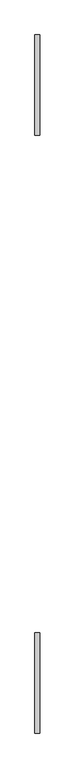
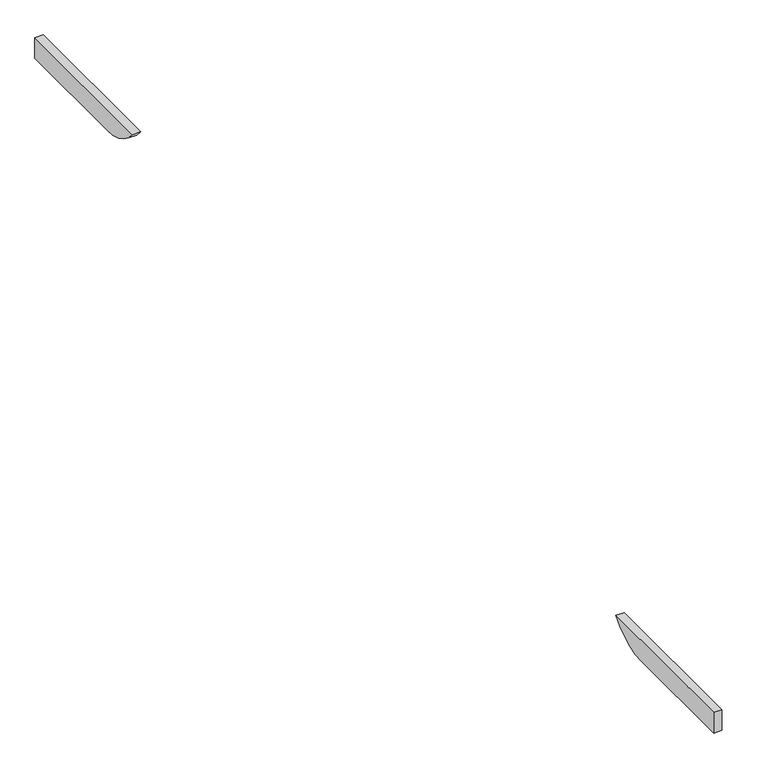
"""IFC4 building model written with IfcOpenShell, lengths in millimetres: proxy geometry, Modelos genéricos 65 : Modelos genéricos 2."""

import ifcopenshell
import ifcopenshell.guid

model = None  # the IFC model being written
_history = None  # IfcOwnerHistory: only IFC2X3 demands one
_inside = {}  # id of a spatial element -> (the spatial element, [elements in it])
_under = {}  # id of a project, library or spatial element -> (it, [spatial elements below it])
_declared = {}  # id of a project -> (the project, [libraries it declares])
_typed = {}  # id of a type object -> (the type object, [elements of that type])
_made_of = {}  # id of a material, layer set ... -> (it, [elements and type objects made of it])


def new_model(schema):
    """Start an empty IFC model of exactly this schema.

    Asked for "IFC4X3", IfcOpenShell would pick the latest addendum, in which some entities
    have other attributes; the version numbers below select the first issue.
    IFC2X3 requires an IfcOwnerHistory on every rooted entity: one is made here for all.
    """
    global model, _history
    if schema == "IFC4X3":
        model = ifcopenshell.file(schema_version=(4, 3, 0, 0))
    else:
        model = ifcopenshell.file(schema=schema)
    _inside.clear()
    _under.clear()
    _declared.clear()
    _typed.clear()
    _made_of.clear()
    _history = None
    if model.schema == "IFC2X3":
        org = make("IfcOrganization", Name="unknown")
        user = make(
            "IfcPersonAndOrganization",
            ThePerson=make("IfcPerson", FamilyName="unknown"),
            TheOrganization=org,
        )
        app = make(
            "IfcApplication",
            ApplicationDeveloper=org,
            Version="unknown",
            ApplicationFullName="unknown",
            ApplicationIdentifier="unknown",
        )
        _history = make(
            "IfcOwnerHistory",
            OwningUser=user,
            OwningApplication=app,
            ChangeAction="ADDED",
            CreationDate=0,
        )
    return model


def make(cls, **values):
    """One entity of the class cls with the attributes given. An attribute that is None is left unset."""
    return model.create_entity(
        cls, **{name: value for name, value in values.items() if value is not None}
    )


def rooted(cls, **values):
    """An entity with a GlobalId (a new one), such as an element, a storey or a relation."""
    return make(cls, GlobalId=ifcopenshell.guid.new(), OwnerHistory=_history, **values)


def si_unit(unit_type, name, prefix=None):
    """IfcSIUnit, for example si_unit("LENGTHUNIT", "METRE", prefix="MILLI")."""
    return make("IfcSIUnit", UnitType=unit_type, Prefix=prefix, Name=name)


def assignment(units):
    """IfcUnitAssignment: the units of a project."""
    return None if units is None else make("IfcUnitAssignment", Units=units)


def point(xyz):
    """IfcCartesianPoint."""
    return None if xyz is None else make("IfcCartesianPoint", Coordinates=xyz)


def direction(xyz):
    """IfcDirection."""
    return None if xyz is None else make("IfcDirection", DirectionRatios=xyz)


def frame(location, z_axis=None, x_axis=None):
    """IfcAxis2Placement3D, a coordinate frame: its origin and axes. An axis left out is left unset."""
    return make(
        "IfcAxis2Placement3D",
        Location=point(location),
        Axis=direction(z_axis),
        RefDirection=direction(x_axis),
    )


def frame_2d(location, x_axis=None):
    """IfcAxis2Placement2D, a coordinate frame in the plane: its origin and x axis."""
    return make(
        "IfcAxis2Placement2D", Location=point(location), RefDirection=direction(x_axis)
    )


def origin():
    """The frame at (0, 0, 0) with its axes left unset."""
    return frame((0.0, 0.0, 0.0))


def place(relative_to, where):
    """IfcLocalPlacement: puts the frame where relative to a parent placement (None: the world)."""
    return make(
        "IfcLocalPlacement", PlacementRelTo=relative_to, RelativePlacement=where
    )


def context(
    kind, dimensions, precision=None, world=None, true_north=None, identifier=None
):
    """IfcGeometricRepresentationContext, for example the 3D "Model" context."""
    return make(
        "IfcGeometricRepresentationContext",
        ContextIdentifier=identifier,
        ContextType=kind,
        CoordinateSpaceDimension=dimensions,
        Precision=precision,
        WorldCoordinateSystem=world,
        TrueNorth=true_north,
    )


def project(units=None, contexts=None):
    """IfcProject with its units and contexts."""
    return rooted(
        "IfcProject",
        Name="project",
        RepresentationContexts=contexts,
        UnitsInContext=assignment(units),
    )


def spatial(cls, under=None, at=None, **own):
    """A site, building, storey or space (cls), placed at a placement, below another one or the project."""
    s = rooted(cls, ObjectPlacement=at, **own)
    if under is not None:
        _under.setdefault(under.id(), (under, []))[1].append(s)
    return s


def polyline(points):
    """IfcPolyline through the points."""
    return make("IfcPolyline", Points=[point(p) for p in points])


def circle_curve(where, radius):
    """IfcCircle in the frame where."""
    return make("IfcCircle", Position=where, Radius=radius)


def trimmed(basis, trim1, trim2, sense, master):
    """IfcTrimmedCurve: the piece of a basis curve between two trims."""
    return make(
        "IfcTrimmedCurve",
        BasisCurve=basis,
        Trim1=trim1,
        Trim2=trim2,
        SenseAgreement=sense,
        MasterRepresentation=master,
    )


def segment(curve, same_sense, transition):
    """IfcCompositeCurveSegment."""
    return make(
        "IfcCompositeCurveSegment",
        Transition=transition,
        SameSense=same_sense,
        ParentCurve=curve,
    )


def composite_curve(segments, self_intersect=None):
    """IfcCompositeCurve: segments joined end to end."""
    return make("IfcCompositeCurve", Segments=segments, SelfIntersect=self_intersect)


def outline(outer, holes=None, kind="AREA"):
    """IfcArbitraryClosedProfileDef: a profile drawn as a closed curve; with holes, ...WithVoids."""
    if holes is None:
        return make("IfcArbitraryClosedProfileDef", ProfileType=kind, OuterCurve=outer)
    return make(
        "IfcArbitraryProfileDefWithVoids",
        ProfileType=kind,
        OuterCurve=outer,
        InnerCurves=holes,
    )


def extrude(swept, where, along, depth):
    """IfcExtrudedAreaSolid: the profile swept, set in the frame where, extruded along a direction by depth."""
    return make(
        "IfcExtrudedAreaSolid",
        SweptArea=swept,
        Position=where,
        ExtrudedDirection=direction(along),
        Depth=depth,
    )


def shape(context_of_items, identifier, shape_type, items):
    """IfcShapeRepresentation: the items that make up one representation, for example the "Body"."""
    return make(
        "IfcShapeRepresentation",
        ContextOfItems=context_of_items,
        RepresentationIdentifier=identifier,
        RepresentationType=shape_type,
        Items=items,
    )


def source(mapping_origin, context_of_items, identifier, shape_type, items):
    """IfcRepresentationMap: a shape defined once, which mapped items show again and again."""
    return make(
        "IfcRepresentationMap",
        MappingOrigin=mapping_origin,
        MappedRepresentation=shape(context_of_items, identifier, shape_type, items),
    )


def transform(
    local_origin,
    x_axis=None,
    y_axis=None,
    z_axis=None,
    scale=None,
    scale2=None,
    scale3=None,
    uniform=True,
):
    """IfcCartesianTransformationOperator3D, or its non-uniform kind. x_axis, y_axis, z_axis: its Axis1, 2, 3."""
    if uniform:
        return make(
            "IfcCartesianTransformationOperator3D",
            Axis1=direction(x_axis),
            Axis2=direction(y_axis),
            LocalOrigin=point(local_origin),
            Scale=scale,
            Axis3=direction(z_axis),
        )
    return make(
        "IfcCartesianTransformationOperator3DnonUniform",
        Axis1=direction(x_axis),
        Axis2=direction(y_axis),
        LocalOrigin=point(local_origin),
        Scale=scale,
        Axis3=direction(z_axis),
        Scale2=scale2,
        Scale3=scale3,
    )


def mapped(mapping_source, mapping_target):
    """IfcMappedItem: shows the shape of a source again, moved by a transform."""
    return make(
        "IfcMappedItem", MappingSource=mapping_source, MappingTarget=mapping_target
    )


def made_of(thing, what):
    """Note that an element or type object is made of a material, layer set ...; save() writes the relation."""
    if what is not None:
        _made_of.setdefault(what.id(), (what, []))[1].append(thing)
    return thing


def element(
    cls,
    number,
    at=None,
    inside=None,
    cuts=None,
    type_object=None,
    material=None,
    context=None,
    identifier="Body",
    shape_type=None,
    held_by="IfcProductDefinitionShape",
    body=None,
    shapes=None,
    **own,
):
    """One element of the class cls, such as IfcWall. Its Tag is "e" and its number.

    at: its placement. inside: the storey or other place that contains it. cuts: it is an
    opening in that element (IfcRelVoidsElement). A single representation is given by context,
    identifier, shape_type and body (its items); several are given by shapes. held_by: the class
    of the entity that holds the representations. save() writes the other relations.
    """
    e = rooted(cls, Tag="e%d" % number, ObjectPlacement=at, **own)
    if body is not None:
        shapes = [shape(context, identifier, shape_type, body)]
    if shapes is not None:
        e.Representation = make(held_by, Representations=shapes)
    if inside is not None:
        _inside.setdefault(inside.id(), (inside, []))[1].append(e)
    if cuts is not None:
        rooted(
            "IfcRelVoidsElement", RelatingBuildingElement=cuts, RelatedOpeningElement=e
        )
    if type_object is not None:
        _typed.setdefault(type_object.id(), (type_object, []))[1].append(e)
    return made_of(e, material)


def aggregate(whole, parts):
    """IfcRelAggregates: a whole, such as a stair, and the parts it consists of."""
    return rooted("IfcRelAggregates", RelatingObject=whole, RelatedObjects=parts)


def save(model, path):
    """Write the relations noted so far, then the file.

    IfcRelAggregates (storeys below a building ...), IfcRelContainedInSpatialStructure (elements
    in a storey), IfcRelDefinesByType, IfcRelAssociatesMaterial and IfcRelDeclares: one each for
    every whole, place, type object, material and project.
    """
    for whole, parts in _under.values():
        aggregate(whole, parts)
    for where, things in _inside.values():
        rooted(
            "IfcRelContainedInSpatialStructure",
            RelatedElements=things,
            RelatingStructure=where,
        )
    for kind, things in _typed.values():
        rooted("IfcRelDefinesByType", RelatedObjects=things, RelatingType=kind)
    for what, things in _made_of.values():
        rooted("IfcRelAssociatesMaterial", RelatedObjects=things, RelatingMaterial=what)
    for by, libraries in _declared.values():
        rooted("IfcRelDeclares", RelatingContext=by, RelatedDefinitions=libraries)
    model.write(path)


def generic_models_555904f9(model_context):
    return source(origin(), model_context, "Body", "SweptSolid", [
        extrude(outline(composite_curve([segment(polyline([(-2331.3761835, 2840.0), (-2331.3761835, 3000.0), (-1101.3761835, 3000.0)]), True, "CONTINUOUS"), segment(trimmed(circle_curve(frame_2d((-1421.3761835, 3240.0)), 400.0), [point((-1101.3761835, 3000.0))], [point((-1421.3761835, 2840.0))], False, "CARTESIAN"), True, "CONTINUOUS"), segment(polyline([(-1421.3761835, 2840.0), (-2331.3761835, 2840.0)]), True, "CONTINUOUS")], self_intersect=False)), frame((55273.4472467, 0.0, 0.0), z_axis=(1.0, 0.0, 0.0), x_axis=(0.0, 1.0, 0.0)), (0.0, 0.0, 1.0), 60.0),
        extrude(outline(composite_curve([segment(polyline([(6228.6238165, 2840.0), (5318.6238165, 2840.0)]), True, "CONTINUOUS"), segment(trimmed(circle_curve(frame_2d((5318.6238165, 3240.0)), 400.0), [point((5318.6238165, 2840.0))], [point((4998.6238165, 3000.0))], False, "CARTESIAN"), True, "CONTINUOUS"), segment(polyline([(4998.6238165, 3000.0), (6228.6238165, 3000.0), (6228.6238165, 2840.0)]), True, "CONTINUOUS")], self_intersect=False)), frame((55273.4472467, 0.0, 0.0), z_axis=(1.0, 0.0, 0.0), x_axis=(0.0, 1.0, 0.0)), (0.0, 0.0, 1.0), 60.0),
    ])


if __name__ == "__main__":
    model = new_model("IFC4")
    model_context = context("Model", 3, world=origin())
    ifc_project = project(units=[si_unit("LENGTHUNIT", "METRE", prefix="MILLI")], contexts=[model_context])
    site = spatial("IfcSite", under=ifc_project)
    building = spatial("IfcBuilding", under=site)
    placement = place(None, origin())
    generic_models_shape = generic_models_555904f9(model_context)
    element("IfcBuildingElementProxy", 1, Name="Modelos genéricos 65 : Modelos genéricos 2", ObjectType="Modelos genéricos 65 : Modelos genéricos 2", at=placement, inside=building, context=model_context, shape_type="MappedRepresentation", body=[
        mapped(generic_models_shape, transform((0.0, 0.0, 0.0), x_axis=(1.0, 0.0, 0.0), y_axis=(0.0, 1.0, 0.0), z_axis=(0.0, 0.0, 1.0))),
    ])
    save(model, "model.ifc")
